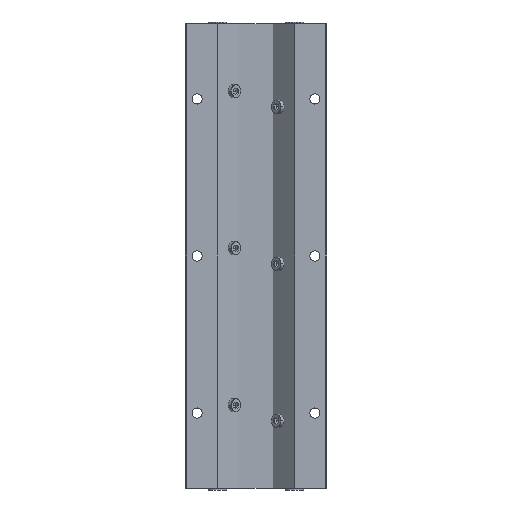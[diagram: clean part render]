
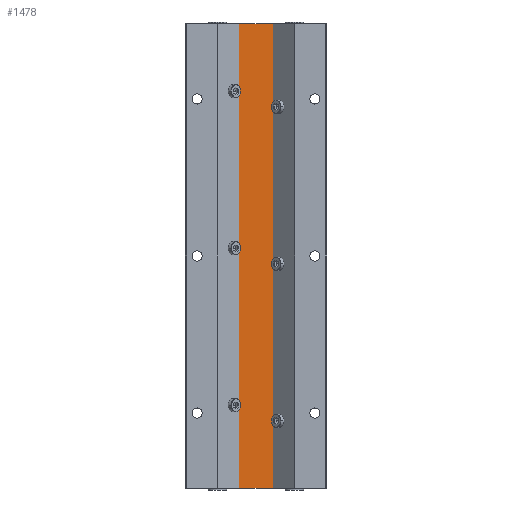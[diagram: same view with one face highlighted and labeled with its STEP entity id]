
A CAD part, front view. The second image highlights one B-rep face of the part: STEP entity #1478.
In plain terms, the highlighted planar face has unit normal (0, -1, 0).
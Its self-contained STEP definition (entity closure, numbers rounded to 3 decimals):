
#906 = VERTEX_POINT ( 'NONE', #3793 ) ;
#912 = VERTEX_POINT ( 'NONE', #3783 ) ;
#914 = EDGE_CURVE ( 'NONE', #912, #906, #3782, .T. ) ;
#946 = EDGE_CURVE ( 'NONE', #906, #1077, #3694, .T. ) ;
#1077 = VERTEX_POINT ( 'NONE', #3984 ) ;
#1080 = EDGE_CURVE ( 'NONE', #1081, #1077, #3982, .T. ) ;
#1081 = VERTEX_POINT ( 'NONE', #3978 ) ;
#1368 = EDGE_CURVE ( 'NONE', #912, #1081, #4442, .T. ) ;
#1369 = ORIENTED_EDGE ( 'NONE', *, *, #1080, .T. ) ;
#1478 = ADVANCED_FACE ( 'NONE', ( #4874 ), #4873, .T. ) ;
#1479 = EDGE_LOOP ( 'NONE', ( #1480, #1481, #1482, #1369 ) ) ;
#1480 = ORIENTED_EDGE ( 'NONE', *, *, #946, .F. ) ;
#1481 = ORIENTED_EDGE ( 'NONE', *, *, #914, .F. ) ;
#1482 = ORIENTED_EDGE ( 'NONE', *, *, #1368, .T. ) ;
#3691 = DIRECTION ( 'NONE',  ( 1., 0., 0. ) ) ;
#3692 = VECTOR ( 'NONE', #3691, 1000. ) ;
#3693 = CARTESIAN_POINT ( 'NONE',  ( -11.015, 19., 0. ) ) ;
#3694 = LINE ( 'NONE', #3693, #3692 ) ;
#3779 = DIRECTION ( 'NONE',  ( 0., 0., 1. ) ) ;
#3780 = VECTOR ( 'NONE', #3779, 1000. ) ;
#3781 = CARTESIAN_POINT ( 'NONE',  ( -11.015, 19., -296. ) ) ;
#3782 = LINE ( 'NONE', #3781, #3780 ) ;
#3783 = CARTESIAN_POINT ( 'NONE',  ( -11.015, 19., -296. ) ) ;
#3793 = CARTESIAN_POINT ( 'NONE',  ( -11.015, 19., 0. ) ) ;
#3978 = CARTESIAN_POINT ( 'NONE',  ( 11.015, 19., -296. ) ) ;
#3979 = DIRECTION ( 'NONE',  ( 0., 0., 1. ) ) ;
#3980 = VECTOR ( 'NONE', #3979, 1000. ) ;
#3981 = CARTESIAN_POINT ( 'NONE',  ( 11.015, 19., -296. ) ) ;
#3982 = LINE ( 'NONE', #3981, #3980 ) ;
#3984 = CARTESIAN_POINT ( 'NONE',  ( 11.015, 19., 0. ) ) ;
#4439 = DIRECTION ( 'NONE',  ( 1., 0., 0. ) ) ;
#4440 = VECTOR ( 'NONE', #4439, 1000. ) ;
#4441 = CARTESIAN_POINT ( 'NONE',  ( -11.015, 19., -296. ) ) ;
#4442 = LINE ( 'NONE', #4441, #4440 ) ;
#4869 = DIRECTION ( 'NONE',  ( 0., 0., -1. ) ) ;
#4870 = DIRECTION ( 'NONE',  ( 0., -1., 0. ) ) ;
#4871 = CARTESIAN_POINT ( 'NONE',  ( -11.015, 19., -296. ) ) ;
#4872 = AXIS2_PLACEMENT_3D ( 'NONE', #4871, #4870, #4869 ) ;
#4873 = PLANE ( 'NONE',  #4872 ) ;
#4874 = FACE_OUTER_BOUND ( 'NONE', #1479, .T. ) ;
